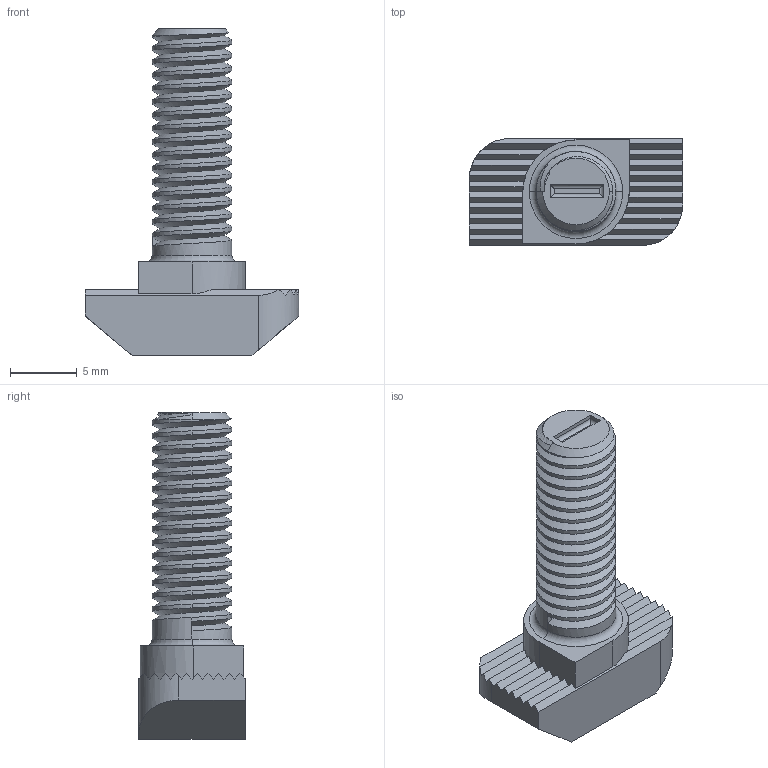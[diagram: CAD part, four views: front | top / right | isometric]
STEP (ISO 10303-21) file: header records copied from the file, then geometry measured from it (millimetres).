
FILE_DESCRIPTION (( 'STEP AP203' ), '1' );
FILE_NAME ('5023.STEP', '2016-01-21T10:01:30', ( '' ), ( '' ), 'SwSTEP 2.0', 'SolidWorks 2014', '' );
FILE_SCHEMA (( 'CONFIG_CONTROL_DESIGN' ));
Length unit declared in the file: millimetre
Products named in the file (1): 5023
Bounding box: 16 x 8 x 24.5 mm (x, y, z)
Volume: 1071.3 mm3; surface area: 1004.8 mm2
Topology: 1 solids, 1 shells, 106 faces, 295 edges, 193 vertices
Faces by surface type: plane 58, cylinder 41, cone 3, torus 2, bspline 2
Entity records: 5090 total; most frequent: CARTESIAN_POINT 2625, ORIENTED_EDGE 590, DIRECTION 405, EDGE_CURVE 295, VERTEX_POINT 193, LINE 171, VECTOR 171, AXIS2_PLACEMENT_3D 117
